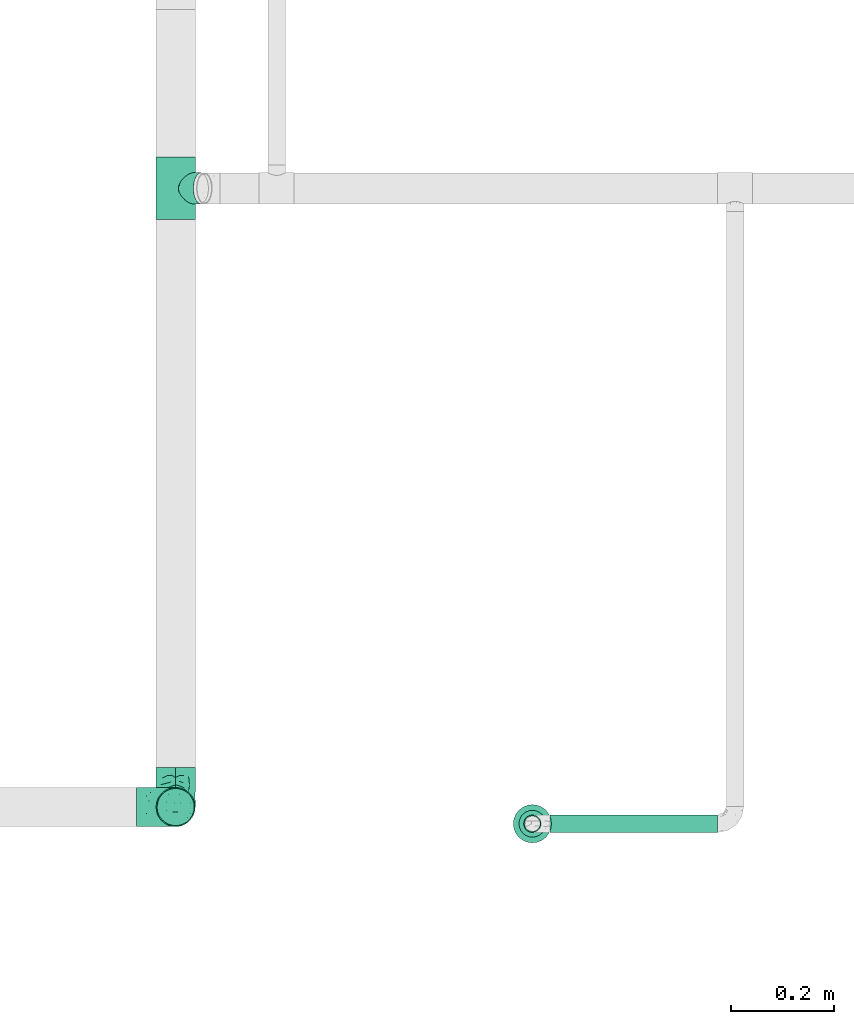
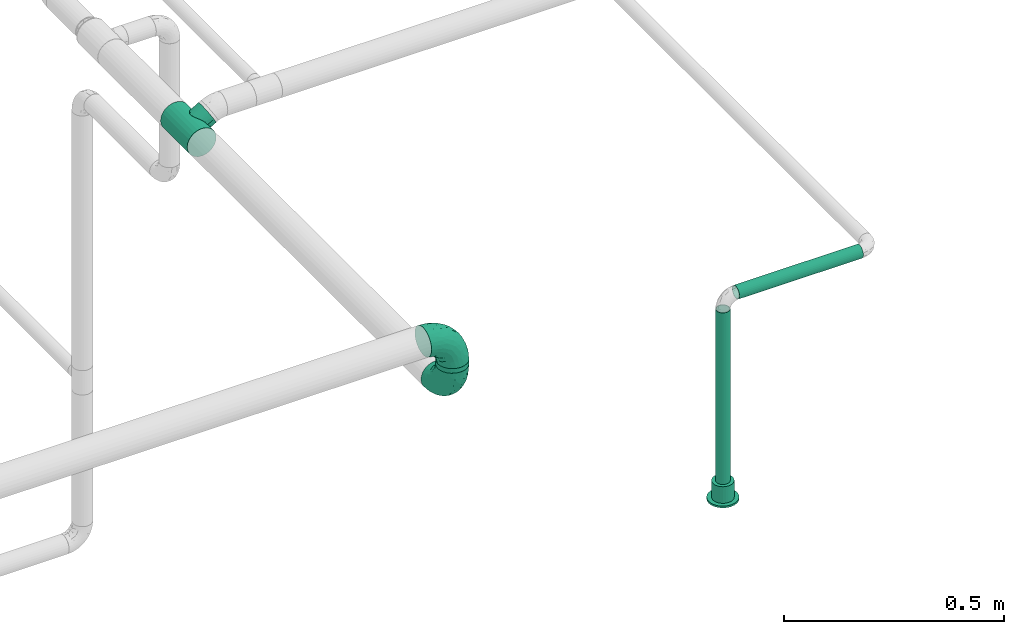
# One storey, part 16 of 95: 3 flow fittings, 3 flow segments, 1 flow terminal.
"""IFC2X3 building model written with IfcOpenShell, lengths in millimetres."""

from ifc_helpers import new_model, entity, si_unit, converted_unit, derived_unit, direction, frame, origin_with_axes, origin_2d_with_axis, place, context, subcontext, project, spatial, hollow_circle, extrude, open_shell, surface_model, source, transform, mapped, type_object, element, save


model = new_model("IFC2X3")

# Units and contexts
model_context = context("Model", 3, precision=0.01, world=frame((0.0, 4.29681676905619e-09, 0.0)), true_north=direction((4.01073788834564e-13, 1.0)))
plan_context = context("Plan", 3, precision=0.01, world=frame((0.0, 4.29681676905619e-09, 0.0)), true_north=direction((4.01073788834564e-13, 1.0)))
body_context = subcontext(model_context, "Body", "Model", "MODEL_VIEW")
ifc_project = project(units=[converted_unit("PLANEANGLEUNIT", "DEGREE", entity("IfcPositiveLengthMeasure", 0.0174532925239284), si_unit("PLANEANGLEUNIT", "RADIAN"), dimensions=[0, 0, 0, 0, 0, 0, 0]), si_unit("AREAUNIT", "SQUARE_METRE"), si_unit("LENGTHUNIT", "METRE", prefix="MILLI"), si_unit("MASSUNIT", "GRAM", prefix="KILO"), si_unit("POWERUNIT", "WATT"), si_unit("PRESSUREUNIT", "PASCAL"), si_unit("FORCEUNIT", "NEWTON", prefix="KILO"), si_unit("ELECTRICVOLTAGEUNIT", "VOLT"), si_unit("ELECTRICCURRENTUNIT", "AMPERE"), si_unit("THERMODYNAMICTEMPERATUREUNIT", "DEGREE_CELSIUS"), si_unit("TIMEUNIT", "SECOND"), si_unit("VOLUMEUNIT", "CUBIC_METRE"), derived_unit("LINEARVELOCITYUNIT", [(si_unit("LENGTHUNIT", "METRE"), 1), (si_unit("TIMEUNIT", "SECOND"), -1)]), derived_unit("VOLUMETRICFLOWRATEUNIT", [(si_unit("VOLUMEUNIT", "CUBIC_METRE"), 1), (si_unit("TIMEUNIT", "SECOND"), -1)]), derived_unit("THERMALTRANSMITTANCEUNIT", [(si_unit("POWERUNIT", "WATT"), 1), (si_unit("THERMODYNAMICTEMPERATUREUNIT", "KELVIN"), -1), (si_unit("AREAUNIT", "SQUARE_METRE"), -1)]), derived_unit("SOUNDPRESSUREUNIT", [(si_unit("PRESSUREUNIT", "PASCAL"), 1)])], contexts=[model_context, plan_context])

# Site, building, storey
site_placement = place(None, frame((0.0, -4.29681676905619e-09, 0.0), z_axis=(0.0, 0.0, 1.0), x_axis=(1.0, 0.0, 0.0)))
site = spatial("IfcSite", under=ifc_project, at=site_placement, CompositionType="ELEMENT")
building_placement = place(site_placement, frame((0.0, 4.29681676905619e-09, 0.0), z_axis=(0.0, 0.0, 1.0), x_axis=(1.0, 0.0, 0.0)))
building = spatial("IfcBuilding", under=site, at=building_placement, Name="mc-building", CompositionType="ELEMENT")
storey_placement = place(building_placement, frame((0.0, 0.0, 210900.0), z_axis=(0.0, 0.0, 1.0), x_axis=(1.0, 0.0, 0.0)))
storey = spatial("IfcBuildingStorey", under=building, at=storey_placement, Name="Nivå F", CompositionType="ELEMENT", Elevation=210900.0)

# Flow fittings
pipe_fitting_type_1 = type_object("IfcPipeFittingType", Name="magi_pipe_fe_elbow_short_001", PredefinedType="BEND")
shared_shape_1 = source(origin_with_axes(), body_context, "Body", "SurfaceModel", [
    surface_model("IfcShellBasedSurfaceModel", [(-76.2, 19.05, -32.99557), (-76.2, 9.86101, -36.80177), (-76.2, 0.0, -38.1), (-76.2, 26.94077, -26.94077), (-76.2, 36.80177, -9.86101), (-76.2, 32.99557, -19.05), (-76.2, -26.94077, -26.94077), (-76.2, -36.80177, -9.86101), (-76.2, -19.05, -32.99557), (-76.2, -9.86101, -36.80177), (-76.2, -32.99557, -19.05), (-76.2, -38.1, 0.0), (-76.2, -36.80177, 9.86101), (-76.2, 26.94077, 26.94077), (-76.2, 36.80177, 9.86101), (-76.2, 32.99557, 19.05), (-76.2, 9.86101, 36.80177), (-76.2, 19.05, 32.99557), (-76.2, 0.0, 38.1), (-76.2, -32.99557, 19.05), (-76.2, -26.94077, 26.94077), (-76.2, -9.86101, 36.80177), (-76.2, -19.05, 32.99557), (-76.2, 38.1, 0.0), (0.0, 76.2, -38.1), (-9.86101, 76.2, -36.80177), (-19.05, 76.2, -32.99557), (-26.94077, 76.2, -26.94077), (-32.99557, 76.2, -19.05), (-36.80177, 76.2, -9.86101), (26.94077, 76.2, -26.94077), (36.80177, 76.2, -9.86101), (9.86101, 76.2, -36.80177), (19.05, 76.2, -32.99557), (32.99557, 76.2, -19.05), (36.80177, 76.2, 9.86101), (38.1, 76.2, 0.0), (-36.80177, 76.2, 9.86101), (-26.94077, 76.2, 26.94077), (-32.99557, 76.2, 19.05), (-19.05, 76.2, 32.99557), (-9.86101, 76.2, 36.80177), (0.0, 76.2, 38.1), (26.94077, 76.2, 26.94077), (32.99557, 76.2, 19.05), (9.86101, 76.2, 36.80177), (19.05, 76.2, 32.99557), (-38.1, 76.2, 0.0), (-51.47253, -33.41495, 11.97429), (-55.87921, -29.59735, 21.38675), (-40.87936, -32.50576, 0.0), (-57.46182, -35.13216, 0.0), (-9.7569, -13.15819, 14.69187), (-2.65186, -10.17769, 8.01257), (2.20082, -2.20082, 15.78668), (-58.2046, -5.04721, 37.4484), (-53.35237, 5.84022, 38.03506), (13.01533, 9.30417, 14.3119), (23.26567, 31.00373, 18.95093), (8.92292, 13.82363, 24.31711), (-37.93212, -0.34191, 36.92855), (-55.73356, -14.37507, 34.26516), (-29.5907, -8.99996, 31.84562), (-48.87429, -21.76577, 28.30344), (-34.13735, -29.20196, 7.83838), (-24.94775, -24.3882, 0.0), (-13.82363, -8.92292, 24.31711), (-6.80575, 6.80575, 31.14998), (-37.24299, 60.80967, 16.55959), (-31.82754, 59.31737, 25.03043), (-14.22204, 65.71998, 35.68746), (-5.22176, 56.99222, 38.00642), (-58.73143, 14.94265, 35.9909), (-9.94517, 25.51838, 37.4103), (-18.93111, 6.98952, 35.57772), (-3.89226, 20.58438, 35.01344), (-65.91802, 23.07271, 31.04479), (-13.24152, 37.4675, 38.03164), (-28.22122, 28.22122, 37.17425), (-22.68668, 16.64938, 37.90374), (-60.23482, 40.58212, 8.37688), (-60.8286, 37.23683, 16.55705), (-47.30619, 47.30619, 14.2421), (-59.55922, 31.76102, 25.00381), (21.76577, 48.87429, 28.30344), (-39.51357, 50.50487, 21.56421), (14.37507, 55.73356, 34.26516), (29.59735, 55.87921, 21.38675), (33.41495, 51.47253, 11.97429), (-9.01615, -16.27064, 0.0), (-18.50075, -20.95742, 9.87146), (5.04721, 58.2046, 37.4484), (-41.86713, 16.32002, 37.41817), (-37.38612, 9.33613, 38.08374), (24.3882, 24.94775, 0.0), (29.20196, 34.13735, 7.83838), (20.95742, 18.50075, 9.87146), (35.13216, 57.46182, 0.0), (-40.50473, 25.85184, 35.24027), (-31.00373, -23.26567, 18.95093), (-27.62233, 49.24446, 32.02197), (-23.27638, 63.88751, 31.20285), (-40.10509, 61.46399, 8.17366), (-47.75011, 49.97248, 6.70535), (17.55292, 30.69115, 25.82241), (8.99996, 29.5907, 31.84562), (-43.20443, 57.15, 0.0), (-35.27088, 40.23417, 31.3068), (-52.46543, 25.86294, 32.08413), (-0.58232, 0.58231, 22.50977), (-21.74145, 39.43998, 36.62577), (-30.35377, 36.8865, 34.66668), (-16.47755, 51.62643, 36.28492), (-40.16133, 42.54966, 26.98796), (-48.93373, 40.93898, 21.24545), (0.34191, 37.93212, 36.92855), (-30.54899, -16.70018, 26.56572), (10.38979, 2.76708, 7.59679), (32.50576, 40.87936, 0.0), (16.27064, 9.01615, 0.0), (-57.15, 43.20443, 0.0), (3.62725, -3.62725, 0.0), (-56.18403, 32.81229, -25.37784), (-60.79374, 37.24818, -16.56172), (-31.12583, -9.61531, -31.96506), (-33.08389, -0.47526, -36.23756), (-15.30809, -0.63756, -31.219), (-60.31522, 4.8175, -37.976), (-55.58208, -34.10815, -12.42093), (-47.87166, -28.25416, -20.6363), (-36.35476, -28.57081, -12.78243), (-55.4317, 15.55274, -36.12913), (-41.97308, 9.00674, -38.09177), (-32.8123, 56.18403, -25.37784), (-61.68117, 39.97816, -8.33686), (-23.91371, 59.81378, -31.51803), (-15.55274, 55.4317, -36.12913), (-48.48008, 48.48008, -9.09668), (22.76239, 55.12076, -28.76608), (13.14871, 48.24989, -33.88525), (15.02018, 64.34702, -34.67535), (-7.42295, -13.4022, -10.03386), (-7.53093, -9.8797, -17.36177), (4.09889, -3.23385, -10.05311), (-22.23209, 20.60173, -38.07837), (-36.11879, 22.54399, -36.96599), (-59.81378, 23.91371, -31.51803), (-64.14494, -30.32973, -22.13621), (-37.06617, 43.2809, -28.69704), (-35.21221, 35.21221, -33.45314), (-46.56802, 32.18433, -30.26847), (3.32253, -0.70027, -16.3296), (-55.12076, -22.76239, -28.76608), (28.25416, 47.87166, -20.6363), (34.10815, 55.58208, -12.42093), (28.57081, 36.35476, -12.78243), (-64.34702, -15.02018, -34.67535), (4.80394, 56.13349, -37.40338), (-24.08639, -18.54476, -20.78452), (-28.44745, -15.54194, -26.65272), (-13.81153, -9.41447, -23.82138), (-41.58053, -17.39667, -29.91543), (-48.24989, -13.14871, -33.88525), (-56.1335, -4.80394, -37.40338), (-28.5499, 46.87201, -32.27447), (-39.97816, 61.68117, -8.33686), (-4.8175, 60.31522, -37.976), (-13.45022, 13.45022, -35.97664), (0.47526, 33.08389, -36.23756), (1.60394, 17.89715, -31.77365), (-37.24818, 60.79374, -16.56172), (-45.75928, 45.75928, -18.77942), (30.32973, 64.14494, -22.13621), (22.08018, 30.6107, -20.46174), (12.28189, 14.44402, -21.13272), (15.54194, 28.44745, -26.65272), (7.87454, 32.5264, -33.28409), (-9.00674, 41.97308, -38.09177), (-46.32128, 24.51975, -34.33978), (-22.71812, 37.0764, -36.7817), (-0.36118, 0.36118, -22.07635), (-17.64772, -21.30183, -6.55407), (19.53658, 18.92928, -14.18962), (21.30183, 17.64772, -6.55407), (4.4885, 11.61303, -26.72553), (-18.92929, -19.53658, -14.18962)], [open_shell([[[0, 1, 2]], [[3, 0, 2]], [[4, 5, 3]], [[6, 3, 2]], [[4, 3, 7]], [[8, 6, 9]], [[6, 2, 9]], [[10, 7, 6]], [[6, 7, 3]], [[11, 12, 7]], [[12, 4, 7]], [[13, 14, 4]], [[15, 14, 13]], [[16, 17, 13]], [[4, 12, 13]], [[13, 18, 16]], [[19, 20, 12]], [[21, 12, 20]], [[22, 21, 20]], [[21, 13, 12]], [[21, 18, 13]], [[23, 4, 14]], [[24, 25, 26]], [[24, 26, 27]], [[27, 28, 29]], [[24, 27, 30]], [[31, 27, 29]], [[32, 30, 33]], [[32, 24, 30]], [[30, 31, 34]], [[27, 31, 30]], [[31, 35, 36]], [[31, 29, 35]], [[29, 37, 38]], [[38, 37, 39]], [[38, 40, 41]], [[29, 38, 35]], [[42, 38, 41]], [[35, 43, 44]], [[43, 35, 45]], [[43, 45, 46]], [[35, 38, 45]], [[38, 42, 45]], [[37, 29, 47]], [[48, 49, 19]], [[50, 48, 51]], [[52, 53, 54]], [[12, 48, 19]], [[12, 51, 48]], [[18, 55, 56]], [[19, 49, 20]], [[57, 58, 59]], [[60, 61, 62]], [[63, 22, 20]], [[63, 61, 22]], [[64, 50, 65]], [[62, 66, 67]], [[39, 68, 69]], [[41, 70, 71]], [[16, 72, 17]], [[73, 74, 75]], [[17, 76, 13]], [[21, 55, 18]], [[77, 78, 79]], [[80, 81, 82]], [[15, 83, 81]], [[84, 43, 46]], [[23, 14, 80]], [[14, 15, 81]], [[68, 85, 69]], [[83, 15, 13]], [[18, 56, 16]], [[46, 86, 84]], [[13, 76, 83]], [[87, 58, 88]], [[39, 37, 68]], [[89, 90, 65]], [[42, 91, 45]], [[65, 90, 64]], [[42, 41, 71]], [[92, 93, 79]], [[88, 35, 44]], [[44, 43, 87]], [[87, 88, 44]], [[94, 95, 96]], [[88, 97, 35]], [[98, 72, 92]], [[49, 99, 63]], [[69, 100, 101]], [[82, 102, 103]], [[104, 105, 59]], [[106, 102, 47]], [[98, 107, 108]], [[102, 82, 68]], [[86, 46, 45]], [[69, 38, 39]], [[109, 54, 57]], [[110, 100, 111]], [[22, 61, 21]], [[101, 40, 38]], [[70, 41, 40]], [[112, 77, 71]], [[84, 86, 105]], [[96, 95, 58]], [[100, 69, 113]], [[72, 16, 56]], [[108, 113, 83]], [[81, 114, 82]], [[112, 110, 77]], [[91, 71, 115]], [[62, 61, 63]], [[55, 61, 60]], [[116, 99, 66]], [[74, 62, 67]], [[91, 86, 45]], [[105, 86, 115]], [[75, 105, 115]], [[109, 67, 66]], [[59, 105, 67]], [[48, 64, 99]], [[99, 49, 48]], [[63, 20, 49]], [[43, 84, 87]], [[58, 87, 84]], [[92, 72, 56]], [[76, 72, 108]], [[102, 68, 37]], [[82, 114, 85]], [[98, 111, 107]], [[112, 70, 101]], [[114, 83, 113]], [[82, 103, 80]], [[92, 79, 78]], [[115, 71, 77]], [[74, 79, 60]], [[77, 79, 73]], [[71, 91, 42]], [[86, 91, 115]], [[61, 55, 21]], [[56, 55, 60]], [[57, 54, 117]], [[104, 59, 58]], [[116, 66, 62]], [[52, 99, 90]], [[12, 11, 51]], [[97, 88, 118]], [[97, 36, 35]], [[53, 90, 89]], [[90, 53, 52]], [[94, 96, 119]], [[88, 95, 118]], [[117, 54, 53]], [[92, 56, 93]], [[98, 92, 78]], [[111, 98, 78]], [[72, 98, 108]], [[110, 111, 78]], [[107, 111, 100]], [[47, 102, 37]], [[102, 106, 103]], [[106, 120, 103]], [[103, 120, 80]], [[23, 80, 120]], [[14, 81, 80]], [[56, 60, 93]], [[60, 79, 93]], [[117, 121, 119]], [[121, 117, 53]], [[53, 89, 121]], [[119, 96, 117]], [[117, 96, 57]], [[77, 110, 78]], [[100, 110, 112]], [[83, 114, 81]], [[85, 114, 113]], [[69, 85, 113]], [[82, 85, 68]], [[109, 52, 54]], [[99, 52, 66]], [[69, 101, 38]], [[112, 101, 100]], [[100, 113, 107]], [[108, 107, 113]], [[62, 74, 60]], [[75, 74, 67]], [[105, 75, 67]], [[73, 75, 115]], [[77, 73, 115]], [[74, 73, 79]], [[99, 64, 90]], [[50, 64, 48]], [[118, 95, 94]], [[58, 95, 88]], [[58, 57, 96]], [[109, 57, 59]], [[72, 76, 17]], [[83, 76, 108]], [[101, 70, 40]], [[71, 70, 112]], [[58, 84, 104]], [[105, 104, 84]], [[67, 109, 59]], [[52, 109, 66]], [[62, 63, 116]], [[99, 116, 63]], [[122, 5, 123]], [[124, 125, 126]], [[2, 1, 127]], [[128, 129, 130]], [[127, 131, 132]], [[28, 27, 133]], [[120, 134, 23]], [[135, 26, 136]], [[123, 134, 137]], [[138, 139, 140]], [[122, 3, 5]], [[141, 142, 143]], [[144, 132, 145]], [[131, 0, 146]], [[128, 10, 147]], [[148, 149, 150]], [[128, 51, 7]], [[142, 151, 143]], [[152, 6, 8]], [[153, 154, 155]], [[156, 152, 8]], [[32, 157, 24]], [[158, 159, 160]], [[147, 10, 6]], [[129, 152, 161]], [[156, 8, 9]], [[162, 163, 125]], [[154, 34, 31]], [[120, 106, 137]], [[149, 148, 164]], [[47, 29, 165]], [[163, 9, 2]], [[5, 4, 123]], [[25, 166, 136]], [[167, 168, 169]], [[170, 133, 171]], [[25, 24, 166]], [[33, 30, 138]], [[157, 32, 140]], [[29, 28, 170]], [[30, 34, 172]], [[26, 135, 27]], [[132, 131, 145]], [[32, 33, 140]], [[173, 174, 175]], [[169, 168, 176]], [[25, 136, 26]], [[175, 138, 173]], [[168, 177, 157]], [[163, 162, 156]], [[153, 172, 154]], [[10, 128, 7]], [[154, 97, 118]], [[131, 178, 145]], [[0, 3, 146]], [[175, 139, 138]], [[155, 118, 94]], [[131, 1, 0]], [[146, 178, 131]], [[170, 137, 165]], [[149, 179, 145]], [[171, 133, 148]], [[160, 180, 142]], [[65, 181, 89]], [[170, 165, 29]], [[137, 171, 123]], [[172, 138, 30]], [[138, 153, 173]], [[168, 157, 139]], [[166, 157, 177]], [[176, 175, 169]], [[168, 167, 144]], [[154, 31, 97]], [[155, 182, 173]], [[162, 124, 161]], [[147, 152, 129]], [[127, 163, 2]], [[132, 144, 125]], [[132, 125, 163]], [[125, 167, 126]], [[129, 158, 130]], [[31, 36, 97]], [[143, 182, 183]], [[169, 126, 167]], [[3, 122, 146]], [[178, 150, 149]], [[136, 179, 164]], [[133, 27, 135]], [[123, 4, 134]], [[122, 123, 171]], [[133, 170, 28]], [[137, 170, 171]], [[184, 175, 174]], [[180, 160, 126]], [[126, 169, 184]], [[126, 159, 124]], [[51, 128, 50]], [[51, 11, 7]], [[131, 127, 1]], [[163, 127, 132]], [[157, 166, 24]], [[136, 166, 177]], [[164, 179, 149]], [[144, 167, 125]], [[179, 144, 145]], [[168, 144, 177]], [[136, 177, 179]], [[144, 179, 177]], [[141, 121, 89]], [[89, 181, 141]], [[154, 118, 155]], [[183, 155, 94]], [[143, 183, 119]], [[119, 183, 94]], [[155, 183, 182]], [[181, 130, 185]], [[50, 128, 130]], [[130, 181, 65]], [[50, 130, 65]], [[141, 181, 185]], [[142, 141, 185]], [[143, 121, 141]], [[158, 160, 142]], [[142, 180, 151]], [[158, 142, 185]], [[126, 160, 159]], [[130, 158, 185]], [[129, 159, 158]], [[23, 134, 4]], [[120, 137, 134]], [[137, 106, 165]], [[47, 165, 106]], [[174, 151, 180]], [[182, 143, 151]], [[150, 146, 122]], [[149, 145, 178]], [[146, 150, 178]], [[122, 171, 148]], [[148, 150, 122]], [[164, 133, 135]], [[133, 164, 148]], [[164, 135, 136]], [[138, 140, 33]], [[157, 140, 139]], [[154, 172, 34]], [[138, 172, 153]], [[163, 156, 9]], [[152, 156, 162]], [[152, 147, 6]], [[128, 147, 129]], [[155, 173, 153]], [[174, 173, 182]], [[151, 174, 182]], [[174, 180, 184]], [[126, 184, 180]], [[175, 184, 169]], [[168, 139, 176]], [[175, 176, 139]], [[161, 124, 159]], [[125, 124, 162]], [[129, 161, 159]], [[162, 161, 152]], [[143, 119, 121]]])]),
])
for number, where, z_axis, x_axis, name in (
    (1, (522602.92009, 449640.17009, 4440.0), (0.0, 1.0, 0.0), (1.0, 0.0, 0.0), "magi_pipe_fe_elbow_short_001"),
    (2, (522602.92009, 449640.17009, 4274.84456), (1.0, 0.0, 0.0), (0.0, 0.0, -1.0), "magi_pipe_fe_elbow_short_001"),
):
    element("IfcFlowFitting", number, at=place(storey_placement, frame(where, z_axis=z_axis, x_axis=x_axis)), inside=storey, type_object=pipe_fitting_type_1, Name=name, context=body_context, shape_type="MappedRepresentation", body=[
        mapped(shared_shape_1, transform((0.0, 0.0, 0.0), scale=1.0)),
    ])
pipe_fitting_type_2 = type_object("IfcPipeFittingType", Name="magi_pipe_fe_tee_centric_90_NOR", PredefinedType="JUNCTION")
shared_shape_2 = source(origin_with_axes(), body_context, "Body", "SurfaceModel", [
    surface_model("IfcShellBasedSurfaceModel", [(-60.4, 9.86101, -36.80177), (-60.4, 0.0, -38.1), (-60.4, 36.80177, -9.86101), (-60.4, 19.05, -32.99557), (-60.4, 32.99557, -19.05), (-60.4, 26.94077, -26.94077), (-60.4, -38.1, 0.0), (-60.4, -19.05, -32.99557), (-60.4, -26.94077, -26.94077), (-60.4, -9.86101, -36.80177), (-60.4, -32.99557, -19.05), (-60.4, -36.80177, -9.86101), (-60.4, 38.1, 0.0), (-60.4, 32.99557, 19.05), (-60.4, 36.80177, 9.86101), (-60.4, -36.80177, 9.86101), (-60.4, 19.05, 32.99557), (-60.4, 26.94077, 26.94077), (-60.4, 9.86101, 36.80177), (-60.4, 0.0, 38.1), (-60.4, -26.94077, 26.94077), (-60.4, -32.99557, 19.05), (-60.4, -9.86101, 36.80177), (-60.4, -19.05, 32.99557), (60.4, 0.0, -38.1), (60.4, 9.86101, -36.80177), (60.4, 19.05, -32.99557), (60.4, 26.94077, -26.94077), (60.4, 32.99557, -19.05), (60.4, 36.80177, -9.86101), (60.4, -38.1, 0.0), (60.4, -9.86101, -36.80177), (60.4, -26.94077, -26.94077), (60.4, -19.05, -32.99557), (60.4, -32.99557, -19.05), (60.4, -36.80177, -9.86101), (60.4, 36.80177, 9.86101), (60.4, 32.99557, 19.05), (60.4, 19.05, 32.99557), (60.4, 0.0, 38.1), (60.4, 26.94077, 26.94077), (60.4, 9.86101, 36.80177), (60.4, -26.94077, 26.94077), (60.4, -32.99557, 19.05), (60.4, -36.80177, 9.86101), (60.4, -19.05, 32.99557), (60.4, -9.86101, 36.80177), (60.4, 38.1, 0.0), (30.2, -38.1, 0.0), (28.21297, -36.54506, 10.7735), (22.90358, -32.62122, 19.68415), (15.23524, -27.77917, 26.07542), (5.49864, -23.87059, 29.6952), (-30.2, -38.1, 0.0), (-28.21409, -36.54593, 10.77057), (-15.2375, -27.78041, 26.0741), (-5.50829, -23.87281, 29.69341), (-22.9083, -32.62453, 19.67866), (5.49864, -23.87059, -29.6952), (22.90358, -32.62122, -19.68415), (15.23524, -27.77917, -26.07542), (28.21297, -36.54506, -10.7735), (-5.50829, -23.87281, -29.69341), (-15.2375, -27.78041, -26.0741), (-22.9083, -32.62453, -19.67866), (-28.21409, -36.54593, -10.77057), (-21.35462, -57.15, -21.35462), (0.0, -57.15, -30.2), (7.81634, -57.15, -29.17096), (15.1, -57.15, -26.15397), (-30.2, -57.15, 0.0), (26.15397, -57.15, -15.1), (21.35462, -57.15, -21.35462), (26.15397, -57.15, 15.1), (-7.81634, -57.15, -29.17096), (-15.1, -57.15, -26.15397), (-29.17096, -57.15, -7.81634), (-26.15397, -57.15, -15.1), (29.17096, -57.15, -7.81634), (30.2, -57.15, 0.0), (29.17096, -57.15, 7.81634), (7.81634, -57.15, 29.17096), (15.1, -57.15, 26.15397), (21.35462, -57.15, 21.35462), (-21.35462, -57.15, 21.35462), (-26.15397, -57.15, 15.1), (-29.17096, -57.15, 7.81634), (-15.1, -57.15, 26.15397), (0.0, -57.15, 30.2), (-7.81634, -57.15, 29.17096), (-29.20704, -37.32296, 5.38529), (29.20648, -37.32253, 5.38675), (-0.00482, -23.8717, 29.69431), (29.20648, -37.32253, -5.38675), (-29.20704, -37.32296, -5.38529), (-0.00482, -23.8717, -29.69431)], [open_shell([[[0, 1, 2]], [[3, 0, 2]], [[2, 4, 5]], [[3, 2, 5]], [[6, 2, 1]], [[7, 8, 9]], [[8, 1, 9]], [[10, 11, 8]], [[6, 8, 11]], [[8, 6, 1]], [[6, 12, 2]], [[13, 14, 12]], [[15, 13, 6]], [[16, 13, 15]], [[17, 13, 16]], [[18, 16, 19]], [[20, 19, 21]], [[16, 15, 21]], [[22, 19, 23]], [[20, 23, 19]], [[21, 19, 16]], [[12, 6, 13]], [[24, 25, 26]], [[24, 26, 27]], [[27, 28, 29]], [[24, 27, 30]], [[30, 27, 29]], [[31, 32, 33]], [[31, 24, 32]], [[34, 30, 35]], [[30, 34, 32]], [[24, 30, 32]], [[29, 36, 30]], [[36, 37, 30]], [[30, 37, 38]], [[38, 39, 30]], [[38, 37, 40]], [[39, 38, 41]], [[30, 42, 43]], [[44, 30, 43]], [[45, 39, 46]], [[45, 42, 30]], [[30, 39, 45]], [[36, 29, 47]], [[30, 44, 48]], [[49, 48, 44]], [[44, 43, 49]], [[43, 42, 50]], [[51, 50, 42]], [[52, 51, 42]], [[42, 45, 52]], [[43, 50, 49]], [[53, 54, 15]], [[15, 6, 53]], [[54, 21, 15]], [[55, 56, 20]], [[21, 57, 20]], [[57, 21, 54]], [[20, 57, 55]], [[56, 23, 20]], [[52, 23, 56]], [[19, 46, 39]], [[22, 45, 46]], [[18, 39, 41]], [[37, 36, 14]], [[17, 38, 40]], [[13, 40, 37]], [[41, 38, 16]], [[12, 36, 47]], [[23, 45, 22]], [[22, 46, 19]], [[18, 19, 39]], [[41, 16, 18]], [[16, 38, 17]], [[13, 17, 40]], [[14, 13, 37]], [[36, 12, 14]], [[45, 23, 52]], [[29, 28, 4]], [[28, 27, 5]], [[47, 29, 12]], [[24, 31, 9]], [[25, 0, 26]], [[1, 25, 24]], [[26, 3, 27]], [[7, 31, 33]], [[2, 12, 29]], [[28, 5, 4]], [[2, 29, 4]], [[27, 3, 5]], [[3, 26, 0]], [[1, 0, 25]], [[9, 1, 24]], [[31, 7, 9]], [[33, 58, 7]], [[32, 59, 60]], [[59, 32, 34]], [[60, 58, 32]], [[32, 58, 33]], [[35, 30, 48]], [[35, 61, 34]], [[61, 35, 48]], [[34, 61, 59]], [[62, 63, 8]], [[8, 64, 10]], [[64, 8, 63]], [[62, 8, 7]], [[65, 53, 11]], [[65, 11, 10]], [[11, 53, 6]], [[65, 10, 64]], [[58, 62, 7]], [[66, 67, 68]], [[69, 66, 68]], [[70, 69, 71]], [[71, 69, 72]], [[73, 70, 71]], [[74, 66, 75]], [[74, 67, 66]], [[66, 76, 77]], [[76, 66, 70]], [[69, 70, 66]], [[71, 78, 79]], [[79, 80, 73]], [[81, 70, 73]], [[82, 81, 73]], [[82, 73, 83]], [[70, 81, 84]], [[70, 85, 86]], [[84, 85, 70]], [[87, 88, 89]], [[88, 87, 84]], [[81, 88, 84]], [[73, 71, 79]], [[86, 90, 70]], [[57, 85, 84]], [[91, 49, 80]], [[86, 85, 54]], [[84, 87, 55]], [[90, 53, 70]], [[54, 85, 57]], [[55, 89, 56]], [[55, 57, 84]], [[88, 52, 92]], [[55, 87, 89]], [[88, 56, 89]], [[51, 81, 82]], [[86, 54, 90]], [[83, 51, 82]], [[49, 73, 80]], [[83, 73, 50]], [[52, 88, 81]], [[81, 51, 52]], [[92, 56, 88]], [[51, 83, 50]], [[50, 73, 49]], [[79, 91, 80]], [[91, 79, 48]], [[78, 93, 79]], [[59, 71, 72]], [[94, 65, 76]], [[78, 71, 61]], [[72, 69, 60]], [[93, 48, 79]], [[61, 71, 59]], [[60, 68, 58]], [[60, 59, 72]], [[67, 62, 95]], [[60, 69, 68]], [[67, 58, 68]], [[63, 74, 75]], [[78, 61, 93]], [[66, 63, 75]], [[65, 77, 76]], [[66, 77, 64]], [[62, 67, 74]], [[74, 63, 62]], [[95, 58, 67]], [[63, 66, 64]], [[64, 77, 65]], [[70, 94, 76]], [[94, 70, 53]]])]),
])
flow_fitting_placement = place(storey_placement, frame((522602.92009, 450838.0, 4274.84456), z_axis=(0.500000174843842, 0.0, -0.866025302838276), x_axis=(0.0, -1.0, 0.0)))
element("IfcFlowFitting", 3, at=flow_fitting_placement, inside=storey, type_object=pipe_fitting_type_2, Name="magi_pipe_fe_tee_centric_90_NOR", context=body_context, shape_type="MappedRepresentation", body=[
    mapped(shared_shape_2, transform((0.0, 0.0, 0.0), scale=1.0)),
])

# Flow segments
pipe_segment_type = type_object("IfcPipeSegmentType", Name="Stålrør normaltykke", PredefinedType="RIGIDSEGMENT")
shared_shape_3 = source(origin_with_axes(), body_context, "Body", "SweptSolid", [
    extrude(hollow_circle(Radius=38.0, WallThickness=2.0, at=origin_2d_with_axis()), frame((0.0, 0.0, 0.0), z_axis=(1.0, 0.0, 0.0), x_axis=(0.0, 1.0, 0.0)), (0.0, 0.0, 1.0), 12.8),
])
flow_segment_1_placement = place(storey_placement, frame((522602.92009, 449640.17009, 4363.79999999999), z_axis=(0.0, 1.0, 0.0), x_axis=(0.0, 0.0, -1.0)))
element("IfcFlowSegment", 4, at=flow_segment_1_placement, inside=storey, type_object=pipe_segment_type, Name="Stålrør normaltykke", context=body_context, shape_type="MappedRepresentation", body=[
    mapped(shared_shape_3, transform((0.0, 0.0, 0.0), scale=1.0)),
])
shared_shape_4 = source(origin_with_axes(), body_context, "Body", "SweptSolid", [
    extrude(hollow_circle(Radius=16.9, WallThickness=2.0, at=origin_2d_with_axis()), frame((0.0, 0.0, 0.0), z_axis=(1.0, 0.0, 0.0), x_axis=(0.0, 1.0, 0.0)), (0.0, 0.0, 1.0), 324.8),
])
flow_segment_2_placement = place(storey_placement, frame((523652.25668, 449607.85, 4315.0), z_axis=(0.0, 0.0, 1.0), x_axis=(-1.0, 0.0, 0.0)))
element("IfcFlowSegment", 5, at=flow_segment_2_placement, inside=storey, type_object=pipe_segment_type, Name="Stålrør normaltykke", context=body_context, shape_type="MappedRepresentation", body=[
    mapped(shared_shape_4, transform((0.0, 0.0, 0.0), scale=1.0)),
])
shared_shape_5 = source(origin_with_axes(), body_context, "Body", "SweptSolid", [
    extrude(hollow_circle(Radius=16.9, WallThickness=2.0, at=origin_2d_with_axis()), frame((0.0, 0.0, 0.0), z_axis=(1.0, 0.0, 0.0), x_axis=(0.0, 1.0, 0.0)), (0.0, 0.0, 1.0), 511.9),
])
flow_segment_3_placement = place(storey_placement, frame((523293.60843, 449607.85, 4281.20000000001), z_axis=(-0.000893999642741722, -0.99999960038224, 0.0), x_axis=(0.0, 0.0, -1.0)))
element("IfcFlowSegment", 6, at=flow_segment_3_placement, inside=storey, type_object=pipe_segment_type, Name="Stålrør normaltykke", context=body_context, shape_type="MappedRepresentation", body=[
    mapped(shared_shape_5, transform((0.0, 0.0, 0.0), scale=1.0)),
])

# Flow terminal
fire_suppression_terminal_type = type_object("IfcFireSuppressionTerminalType", Name="68DGR-STD-SKJULT I HIMLING", PredefinedType="NOTDEFINED")
shared_shape_6 = source(origin_with_axes(), body_context, "Body", "SurfaceModel", [
    surface_model("IfcShellBasedSurfaceModel", [(-26.0, 0.0, -46.0), (-25.11407, -6.72929, -46.0), (-25.11407, -6.72929, 0.0), (6.72929, -25.11407, 0.0), (6.72929, -25.11407, -46.0), (13.0, -22.51666, -46.0), (22.51666, -13.0, -46.0), (22.51666, -13.0, 0.0), (18.38478, -18.38478, 0.0), (25.11407, -6.72929, 0.0), (25.11407, -6.72929, -46.0), (26.0, 0.0, -46.0), (26.0, 0.0, 0.0), (25.11407, 6.72929, -46.0), (22.51666, 13.0, 0.0), (25.11407, 6.72929, 0.0), (13.0, 22.51666, -46.0), (6.72929, 25.11407, -46.0), (6.72929, 25.11407, 0.0), (18.38478, 18.38478, 0.0), (22.51666, 13.0, -46.0), (-25.11407, 6.72929, 0.0), (-25.11407, 6.72929, -46.0), (-26.16295, -26.16295, 5.0), (35.73926, -9.57631, 5.0), (37.0, 0.0, 5.0), (13.0, 22.51666, 0.0), (-26.0, 0.0, 0.0), (-13.0, 22.51666, 0.0), (-6.72929, 25.11407, 0.0), (0.0, 26.0, 0.0), (-22.51666, 13.0, 0.0), (-18.38478, 18.38478, 0.0), (13.0, -22.51666, 0.0), (0.0, -26.0, 0.0), (-22.51666, -13.0, 0.0), (-18.38478, -18.38478, 0.0), (-13.0, -22.51666, 0.0), (-6.72929, -25.11407, 0.0), (0.0, -26.0, -46.0), (18.38478, -18.38478, -46.0), (-18.38478, -18.38478, -46.0), (-13.0, -22.51666, -46.0), (-6.72929, -25.11407, -46.0), (-22.51666, -13.0, -46.0), (18.38478, 18.38478, -46.0), (-22.51666, 13.0, -46.0), (-18.38478, 18.38478, -46.0), (-13.0, 22.51666, -46.0), (-6.72929, 25.11407, -46.0), (0.0, 26.0, -46.0), (18.5, 32.04294, 5.0), (9.57631, 35.73926, 5.0), (35.73926, 9.57631, 5.0), (26.16295, 26.16295, 5.0), (32.04294, 18.5, 5.0), (-35.73926, -9.57631, 5.0), (-18.5, 32.04294, 5.0), (-9.57631, 35.73926, 5.0), (0.0, 37.0, 5.0), (-32.04294, 18.5, 5.0), (-35.73926, 9.57631, 5.0), (-26.16295, 26.16295, 5.0), (-37.0, 0.0, 5.0), (32.04294, -18.5, 5.0), (0.0, -37.0, 5.0), (26.16295, -26.16295, 5.0), (18.5, -32.04294, 5.0), (9.57631, -35.73926, 5.0), (-9.57631, -35.73926, 5.0), (-32.04294, -18.5, 5.0), (-18.5, -32.04294, 5.0), (18.5, -32.04294, 0.0), (9.57631, -35.73926, 0.0), (0.0, -37.0, 0.0), (32.04294, -18.5, 0.0), (-26.16295, -26.16295, 0.0), (26.16295, -26.16295, 0.0), (-35.73926, 9.57631, 0.0), (-18.5, -32.04294, 0.0), (-9.57631, -35.73926, 0.0), (-32.04294, -18.5, 0.0), (-35.73926, -9.57631, 0.0), (-37.0, 0.0, 0.0), (35.73926, -9.57631, 0.0), (35.73926, 9.57631, 0.0), (32.04294, 18.5, 0.0), (18.5, 32.04294, 0.0), (9.57631, 35.73926, 0.0), (26.16295, 26.16295, 0.0), (-32.04294, 18.5, 0.0), (-26.16295, 26.16295, 0.0), (-9.57631, 35.73926, 0.0), (0.0, 37.0, 0.0), (-18.5, 32.04294, 0.0), (37.0, 0.0, 0.0)], [open_shell([[[0, 1, 2]], [[3, 4, 5]], [[6, 7, 8]], [[9, 7, 10]], [[11, 12, 9]], [[13, 14, 15]], [[15, 12, 11]], [[16, 17, 18]], [[19, 14, 20]], [[21, 22, 0]], [[23, 24, 25]], [[19, 26, 18]], [[19, 18, 21]], [[27, 15, 19]], [[14, 19, 15]], [[19, 21, 27]], [[28, 21, 29]], [[18, 30, 29]], [[31, 21, 32]], [[28, 32, 21]], [[29, 21, 18]], [[12, 15, 27]], [[8, 7, 9]], [[33, 8, 9]], [[34, 3, 33]], [[9, 34, 33]], [[27, 34, 9]], [[2, 35, 27]], [[36, 27, 35]], [[37, 38, 36]], [[34, 27, 36]], [[36, 38, 34]], [[12, 27, 9]], [[5, 4, 39]], [[5, 39, 22]], [[10, 6, 40]], [[5, 10, 40]], [[39, 41, 22]], [[42, 41, 43]], [[41, 39, 43]], [[1, 0, 44]], [[44, 0, 22]], [[22, 41, 44]], [[10, 5, 22]], [[45, 13, 10]], [[20, 13, 45]], [[17, 16, 45]], [[10, 22, 45]], [[45, 22, 17]], [[46, 47, 22]], [[48, 22, 47]], [[48, 49, 22]], [[49, 17, 22]], [[49, 50, 17]], [[11, 10, 13]], [[46, 22, 21]], [[46, 31, 47]], [[49, 48, 28]], [[32, 48, 47]], [[50, 49, 29]], [[21, 0, 27]], [[21, 31, 46]], [[31, 32, 47]], [[48, 32, 28]], [[28, 29, 49]], [[29, 30, 50]], [[16, 26, 45]], [[13, 20, 14]], [[19, 20, 45]], [[11, 13, 15]], [[30, 18, 17]], [[18, 26, 16]], [[26, 19, 45]], [[50, 30, 17]], [[11, 9, 10]], [[10, 7, 6]], [[3, 39, 4]], [[6, 8, 40]], [[3, 5, 33]], [[8, 33, 5]], [[5, 40, 8]], [[3, 34, 39]], [[42, 43, 38]], [[42, 37, 41]], [[1, 44, 35]], [[36, 44, 41]], [[34, 38, 43]], [[38, 37, 42]], [[37, 36, 41]], [[36, 35, 44]], [[1, 35, 2]], [[2, 27, 0]], [[39, 34, 43]], [[51, 52, 53]], [[54, 51, 55]], [[56, 52, 57]], [[55, 51, 53]], [[52, 56, 53]], [[58, 57, 59]], [[57, 52, 59]], [[60, 61, 62]], [[57, 62, 63]], [[62, 61, 63]], [[53, 23, 25]], [[64, 24, 65]], [[66, 64, 67]], [[65, 68, 67]], [[64, 65, 67]], [[69, 65, 24]], [[70, 23, 56]], [[56, 57, 63]], [[71, 69, 23]], [[23, 53, 56]], [[24, 23, 69]], [[72, 73, 74]], [[75, 72, 74]], [[76, 75, 74]], [[77, 72, 75]], [[75, 76, 78]], [[79, 76, 80]], [[76, 74, 80]], [[81, 82, 76]], [[82, 78, 76]], [[83, 78, 82]], [[75, 78, 84]], [[85, 84, 78]], [[86, 85, 87]], [[85, 88, 87]], [[89, 86, 87]], [[88, 85, 78]], [[90, 91, 78]], [[91, 88, 78]], [[92, 93, 94]], [[88, 91, 94]], [[88, 94, 93]], [[95, 84, 85]], [[83, 61, 78]], [[78, 60, 90]], [[94, 91, 57]], [[62, 91, 90]], [[92, 94, 58]], [[61, 60, 78]], [[83, 63, 61]], [[94, 57, 58]], [[57, 91, 62]], [[90, 60, 62]], [[92, 58, 59]], [[59, 93, 92]], [[93, 52, 88]], [[88, 51, 87]], [[86, 89, 55]], [[54, 89, 87]], [[85, 86, 53]], [[51, 54, 87]], [[88, 52, 51]], [[85, 53, 25]], [[53, 86, 55]], [[89, 54, 55]], [[85, 25, 95]], [[59, 52, 93]], [[95, 24, 84]], [[84, 64, 75]], [[72, 77, 67]], [[66, 77, 75]], [[73, 72, 68]], [[24, 64, 84]], [[95, 25, 24]], [[72, 67, 68]], [[67, 77, 66]], [[75, 64, 66]], [[73, 68, 65]], [[65, 74, 73]], [[74, 69, 80]], [[80, 71, 79]], [[81, 76, 70]], [[23, 76, 79]], [[82, 81, 56]], [[71, 23, 79]], [[80, 69, 71]], [[82, 56, 63]], [[56, 81, 70]], [[76, 23, 70]], [[82, 63, 83]], [[65, 69, 74]]])]),
])
flow_terminal_placement = place(storey_placement, frame((523293.60843, 449607.85, 3759.89999999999), z_axis=(0.0, 0.0, -1.0), x_axis=(1.0, 0.0, 0.0)))
element("IfcFlowTerminal", 7, at=flow_terminal_placement, inside=storey, type_object=fire_suppression_terminal_type, Name="68DGR-STD-SKJULT I HIMLING", context=body_context, shape_type="MappedRepresentation", body=[
    mapped(shared_shape_6, transform((0.0, 0.0, 0.0), scale=1.0)),
])

save(model, "model.ifc")
